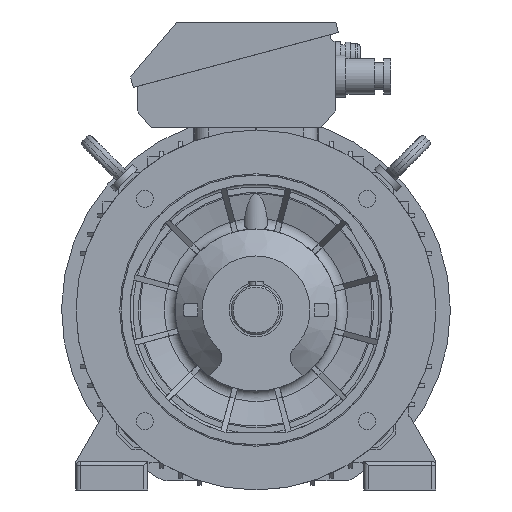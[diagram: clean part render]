
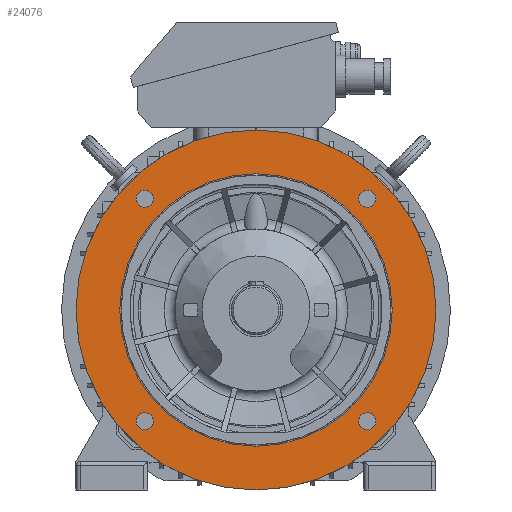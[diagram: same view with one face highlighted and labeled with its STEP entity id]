
A CAD part, front view. The second image highlights one B-rep face of the part: STEP entity #24076.
In plain terms, the highlighted planar face has unit normal (0, -1, 0).
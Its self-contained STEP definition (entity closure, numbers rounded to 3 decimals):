
#6113=ORIENTED_EDGE('',*,*,#10686,.F.);
#6114=ORIENTED_EDGE('',*,*,#10687,.F.);
#6115=ORIENTED_EDGE('',*,*,#10688,.F.);
#6116=ORIENTED_EDGE('',*,*,#10689,.F.);
#6117=ORIENTED_EDGE('',*,*,#10685,.T.);
#6118=ORIENTED_EDGE('',*,*,#10690,.F.);
#10685=EDGE_CURVE('',#12967,#12967,#14038,.T.);
#10686=EDGE_CURVE('',#12968,#12968,#14039,.T.);
#10687=EDGE_CURVE('',#12969,#12969,#14040,.T.);
#10688=EDGE_CURVE('',#12970,#12970,#14041,.T.);
#10689=EDGE_CURVE('',#12971,#12971,#14042,.T.);
#10690=EDGE_CURVE('',#12972,#12972,#14043,.T.);
#12967=VERTEX_POINT('',#35442);
#12968=VERTEX_POINT('',#35445);
#12969=VERTEX_POINT('',#35447);
#12970=VERTEX_POINT('',#35449);
#12971=VERTEX_POINT('',#35451);
#12972=VERTEX_POINT('',#35453);
#14038=CIRCLE('',#25489,199.994);
#14039=CIRCLE('',#25491,9.5);
#14040=CIRCLE('',#25492,9.5);
#14041=CIRCLE('',#25493,9.5);
#14042=CIRCLE('',#25494,9.5);
#14043=CIRCLE('',#25495,151.394);
#14640=EDGE_LOOP('',(#6113));
#14641=EDGE_LOOP('',(#6114));
#14642=EDGE_LOOP('',(#6115));
#14643=EDGE_LOOP('',(#6116));
#14644=EDGE_LOOP('',(#6117));
#14645=EDGE_LOOP('',(#6118));
#15720=FACE_BOUND('',#14640,.T.);
#15721=FACE_BOUND('',#14641,.T.);
#15722=FACE_BOUND('',#14642,.T.);
#15723=FACE_BOUND('',#14643,.T.);
#15724=FACE_BOUND('',#14644,.T.);
#15725=FACE_BOUND('',#14645,.T.);
#16519=PLANE('',#25490);
#24076=ADVANCED_FACE('',(#15720,#15721,#15722,#15723,#15724,#15725),#16519,
 .F.);
#25489=AXIS2_PLACEMENT_3D('',#35441,#28518,#28519);
#25490=AXIS2_PLACEMENT_3D('',#35443,#28520,#28521);
#25491=AXIS2_PLACEMENT_3D('',#35444,#28522,#28523);
#25492=AXIS2_PLACEMENT_3D('',#35446,#28524,#28525);
#25493=AXIS2_PLACEMENT_3D('',#35448,#28526,#28527);
#25494=AXIS2_PLACEMENT_3D('',#35450,#28528,#28529);
#25495=AXIS2_PLACEMENT_3D('',#35452,#28530,#28531);
#28518=DIRECTION('',(0.,-1.,0.));
#28519=DIRECTION('',(-1.,0.,0.));
#28520=DIRECTION('',(0.,1.,0.));
#28521=DIRECTION('',(1.,0.,0.));
#28522=DIRECTION('',(0.,-1.,0.));
#28523=DIRECTION('',(0.,0.,-1.));
#28524=DIRECTION('',(0.,-1.,0.));
#28525=DIRECTION('',(0.,0.,-1.));
#28526=DIRECTION('',(0.,-1.,0.));
#28527=DIRECTION('',(0.,0.,-1.));
#28528=DIRECTION('',(0.,-1.,0.));
#28529=DIRECTION('',(0.,0.,-1.));
#28530=DIRECTION('',(0.,-1.,0.));
#28531=DIRECTION('',(-1.,0.,0.));
#35441=CARTESIAN_POINT('',(0.,-73.004,0.));
#35442=CARTESIAN_POINT('',(-199.994,-73.004,0.));
#35443=CARTESIAN_POINT('',(199.994,-73.004,0.));
#35444=CARTESIAN_POINT('',(-123.744,-73.004,123.744));
#35445=CARTESIAN_POINT('',(-123.744,-73.004,114.244));
#35446=CARTESIAN_POINT('',(-123.744,-73.004,-123.744));
#35447=CARTESIAN_POINT('',(-123.744,-73.004,-133.244));
#35448=CARTESIAN_POINT('',(123.744,-73.004,-123.744));
#35449=CARTESIAN_POINT('',(123.744,-73.004,-133.244));
#35450=CARTESIAN_POINT('',(123.744,-73.004,123.744));
#35451=CARTESIAN_POINT('',(123.744,-73.004,114.244));
#35452=CARTESIAN_POINT('',(0.,-73.004,0.));
#35453=CARTESIAN_POINT('',(-151.394,-73.004,0.));
